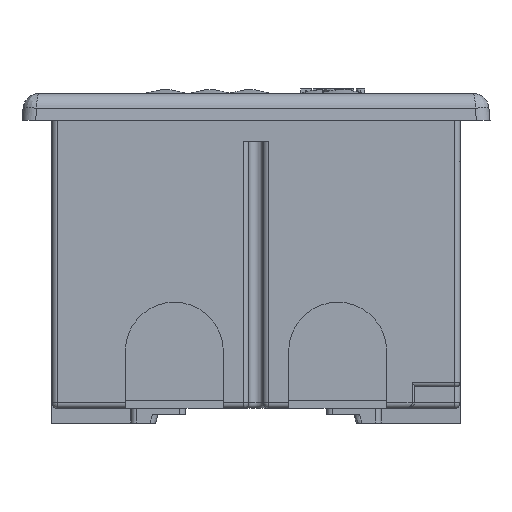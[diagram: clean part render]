
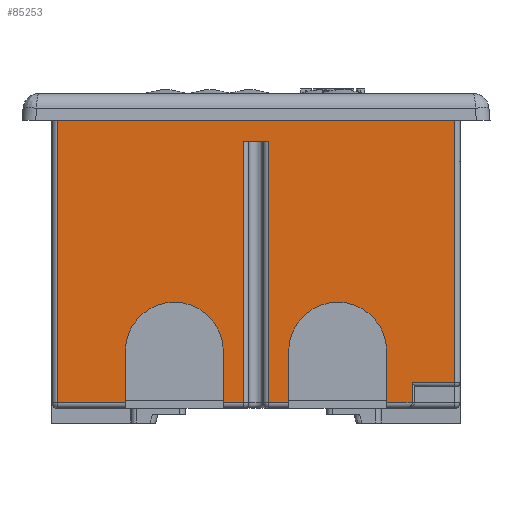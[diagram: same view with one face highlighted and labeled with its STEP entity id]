
A CAD part, front view. The second image highlights one B-rep face of the part: STEP entity #85253.
In plain terms, the highlighted planar face has unit normal (0, -1, 0).
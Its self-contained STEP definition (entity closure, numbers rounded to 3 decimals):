
#1070 = CARTESIAN_POINT ( 'NONE',  ( -37.5, -80., 53.5 ) ) ;
#2842 = CARTESIAN_POINT ( 'NONE',  ( -36.5, -80., 53.5 ) ) ;
#2870 = DIRECTION ( 'NONE',  ( 0., 0., -1. ) ) ;
#3031 = CARTESIAN_POINT ( 'NONE',  ( -36.5, -80., 55. ) ) ;
#3372 = EDGE_CURVE ( 'NONE', #44125, #27571, #8082, .T. ) ;
#5575 = ORIENTED_EDGE ( 'NONE', *, *, #78270, .T. ) ;
#5854 = ORIENTED_EDGE ( 'NONE', *, *, #75296, .T. ) ;
#6375 = VECTOR ( 'NONE', #120239, 1000. ) ;
#8082 = LINE ( 'NONE', #50762, #34492 ) ;
#8683 = VECTOR ( 'NONE', #106391, 1000. ) ;
#10612 = VECTOR ( 'NONE', #18230, 1000. ) ;
#10653 = LINE ( 'NONE', #29027, #80270 ) ;
#11563 = VERTEX_POINT ( 'NONE', #108604 ) ;
#11758 = EDGE_CURVE ( 'NONE', #75592, #24073, #98625, .T. ) ;
#13762 = LINE ( 'NONE', #114788, #10612 ) ;
#13843 = VERTEX_POINT ( 'NONE', #92413 ) ;
#14846 = EDGE_CURVE ( 'NONE', #71360, #76273, #23580, .T. ) ;
#18230 = DIRECTION ( 'NONE',  ( 1., 0., 0. ) ) ;
#18547 = CARTESIAN_POINT ( 'NONE',  ( 2.3, -80., 1. ) ) ;
#20481 = VECTOR ( 'NONE', #92983, 1000. ) ;
#20747 = DIRECTION ( 'NONE',  ( -1., 0., 0. ) ) ;
#20759 = ORIENTED_EDGE ( 'NONE', *, *, #3372, .T. ) ;
#20912 = DIRECTION ( 'NONE',  ( 0., 1., 0. ) ) ;
#21147 = VECTOR ( 'NONE', #44336, 1000. ) ;
#21349 = CARTESIAN_POINT ( 'NONE',  ( -37.5, -80., 55. ) ) ;
#21479 = PLANE ( 'NONE',  #74192 ) ;
#22157 = VECTOR ( 'NONE', #103916, 1000. ) ;
#22182 = DIRECTION ( 'NONE',  ( 0., 0., 1. ) ) ;
#22729 = CARTESIAN_POINT ( 'NONE',  ( -2.3, -80., 55. ) ) ;
#23580 = LINE ( 'NONE', #22729, #122091 ) ;
#24058 = VERTEX_POINT ( 'NONE', #67830 ) ;
#24073 = VERTEX_POINT ( 'NONE', #67370 ) ;
#24332 = LINE ( 'NONE', #34423, #21147 ) ;
#24581 = ORIENTED_EDGE ( 'NONE', *, *, #27420, .F. ) ;
#26285 = CARTESIAN_POINT ( 'NONE',  ( -2.3, -80., 1. ) ) ;
#27420 = EDGE_CURVE ( 'NONE', #44125, #76273, #10653, .T. ) ;
#27571 = VERTEX_POINT ( 'NONE', #18547 ) ;
#28618 = DIRECTION ( 'NONE',  ( -1., 0., 0. ) ) ;
#28694 = EDGE_CURVE ( 'NONE', #24073, #76984, #48517, .T. ) ;
#28798 = EDGE_CURVE ( 'NONE', #27571, #53504, #122183, .T. ) ;
#28805 = CARTESIAN_POINT ( 'NONE',  ( 6., -80., 10.5 ) ) ;
#29027 = CARTESIAN_POINT ( 'NONE',  ( -1.3, -80., 49. ) ) ;
#31230 = VERTEX_POINT ( 'NONE', #75135 ) ;
#32446 = CARTESIAN_POINT ( 'NONE',  ( -6., -80., 10.5 ) ) ;
#33183 = CARTESIAN_POINT ( 'NONE',  ( -2.3, -80., 49. ) ) ;
#34423 = CARTESIAN_POINT ( 'NONE',  ( -6., -80., 0. ) ) ;
#34492 = VECTOR ( 'NONE', #114474, 1000. ) ;
#35073 = LINE ( 'NONE', #78944, #8683 ) ;
#36308 = AXIS2_PLACEMENT_3D ( 'NONE', #119785, #119769, #119662 ) ;
#40879 = ORIENTED_EDGE ( 'NONE', *, *, #96279, .T. ) ;
#41181 = VECTOR ( 'NONE', #106883, 1000. ) ;
#41322 = EDGE_CURVE ( 'NONE', #77916, #53504, #58954, .T. ) ;
#42022 = CARTESIAN_POINT ( 'NONE',  ( 28.683, -80., 1. ) ) ;
#44125 = VERTEX_POINT ( 'NONE', #64786 ) ;
#44336 = DIRECTION ( 'NONE',  ( 0., 0., 1. ) ) ;
#45588 = VERTEX_POINT ( 'NONE', #42022 ) ;
#45645 = CARTESIAN_POINT ( 'NONE',  ( 36.5, -80., 55. ) ) ;
#47307 = LINE ( 'NONE', #88138, #102831 ) ;
#48517 = LINE ( 'NONE', #103054, #22157 ) ;
#50762 = CARTESIAN_POINT ( 'NONE',  ( 2.3, -80., 55. ) ) ;
#51395 = ORIENTED_EDGE ( 'NONE', *, *, #106918, .F. ) ;
#52270 = DIRECTION ( 'NONE',  ( 0., 0., 1. ) ) ;
#53020 = CARTESIAN_POINT ( 'NONE',  ( 28.683, -80., 55. ) ) ;
#53504 = VERTEX_POINT ( 'NONE', #73493 ) ;
#54892 = EDGE_LOOP ( 'NONE', ( #24581, #20759, #121557, #101388, #108663, #124379, #108001, #5854, #5575, #40879, #125715, #121015, #68848, #125072, #126021, #51395, #117533, #103675 ) ) ;
#55548 = DIRECTION ( 'NONE',  ( 0., 0., 1. ) ) ;
#56816 = CIRCLE ( 'NONE', #36308, 9. ) ;
#57548 = EDGE_CURVE ( 'NONE', #116277, #77916, #56816, .T. ) ;
#58954 = LINE ( 'NONE', #119821, #6375 ) ;
#59314 = VECTOR ( 'NONE', #55548, 1000. ) ;
#62107 = DIRECTION ( 'NONE',  ( 1., 0., 0. ) ) ;
#62504 = AXIS2_PLACEMENT_3D ( 'NONE', #97141, #97125, #96968 ) ;
#63366 = CARTESIAN_POINT ( 'NONE',  ( -37.5, -80., 1. ) ) ;
#64786 = CARTESIAN_POINT ( 'NONE',  ( 2.3, -80., 49. ) ) ;
#65209 = VECTOR ( 'NONE', #89696, 1000. ) ;
#65834 = EDGE_CURVE ( 'NONE', #111903, #71360, #13762, .T. ) ;
#67165 = EDGE_CURVE ( 'NONE', #99100, #24058, #92125, .T. ) ;
#67370 = CARTESIAN_POINT ( 'NONE',  ( -24., -80., 10.5 ) ) ;
#67830 = CARTESIAN_POINT ( 'NONE',  ( -36.5, -80., 1. ) ) ;
#68848 = ORIENTED_EDGE ( 'NONE', *, *, #70205, .T. ) ;
#69036 = EDGE_CURVE ( 'NONE', #99100, #31230, #114429, .T. ) ;
#70205 = EDGE_CURVE ( 'NONE', #24058, #76984, #119624, .T. ) ;
#70490 = EDGE_CURVE ( 'NONE', #116277, #13843, #47307, .T. ) ;
#71360 = VERTEX_POINT ( 'NONE', #26285 ) ;
#73493 = CARTESIAN_POINT ( 'NONE',  ( 6., -80., 1. ) ) ;
#74192 = AXIS2_PLACEMENT_3D ( 'NONE', #21349, #20912, #20747 ) ;
#75135 = CARTESIAN_POINT ( 'NONE',  ( 36.5, -80., 53.5 ) ) ;
#75296 = EDGE_CURVE ( 'NONE', #45588, #124284, #106851, .T. ) ;
#75592 = VERTEX_POINT ( 'NONE', #32446 ) ;
#76155 = FACE_OUTER_BOUND ( 'NONE', #54892, .T. ) ;
#76273 = VERTEX_POINT ( 'NONE', #33183 ) ;
#76984 = VERTEX_POINT ( 'NONE', #87352 ) ;
#77016 = VECTOR ( 'NONE', #62107, 1000. ) ;
#77423 = EDGE_CURVE ( 'NONE', #13843, #45588, #106276, .T. ) ;
#77916 = VERTEX_POINT ( 'NONE', #28805 ) ;
#78270 = EDGE_CURVE ( 'NONE', #124284, #11563, #35073, .T. ) ;
#78944 = CARTESIAN_POINT ( 'NONE',  ( 36.5, -80., 4.7 ) ) ;
#80270 = VECTOR ( 'NONE', #28618, 1000. ) ;
#80711 = VECTOR ( 'NONE', #52270, 1000. ) ;
#85253 = ADVANCED_FACE ( 'NONE', ( #76155 ), #21479, .F. ) ;
#85631 = LINE ( 'NONE', #45645, #59314 ) ;
#87352 = CARTESIAN_POINT ( 'NONE',  ( -24., -80., 1. ) ) ;
#87992 = DIRECTION ( 'NONE',  ( 0., 0., -1. ) ) ;
#88138 = CARTESIAN_POINT ( 'NONE',  ( 24., -80., 55. ) ) ;
#89005 = VECTOR ( 'NONE', #2870, 1000. ) ;
#89696 = DIRECTION ( 'NONE',  ( 1., 0., 0. ) ) ;
#92125 = LINE ( 'NONE', #3031, #89005 ) ;
#92413 = CARTESIAN_POINT ( 'NONE',  ( 24., -80., 1. ) ) ;
#92983 = DIRECTION ( 'NONE',  ( 1., 0., 0. ) ) ;
#93249 = CARTESIAN_POINT ( 'NONE',  ( -37.5, -80., 1. ) ) ;
#96279 = EDGE_CURVE ( 'NONE', #11563, #31230, #85631, .T. ) ;
#96968 = DIRECTION ( 'NONE',  ( -1., 0., 0. ) ) ;
#97125 = DIRECTION ( 'NONE',  ( 0., -1., 0. ) ) ;
#97141 = CARTESIAN_POINT ( 'NONE',  ( -15., -80., 10.5 ) ) ;
#98592 = CARTESIAN_POINT ( 'NONE',  ( 24., -80., 10.5 ) ) ;
#98625 = CIRCLE ( 'NONE', #62504, 9. ) ;
#99100 = VERTEX_POINT ( 'NONE', #2842 ) ;
#100166 = CARTESIAN_POINT ( 'NONE',  ( -6., -80., 1. ) ) ;
#101388 = ORIENTED_EDGE ( 'NONE', *, *, #41322, .F. ) ;
#102831 = VECTOR ( 'NONE', #87992, 1000. ) ;
#103054 = CARTESIAN_POINT ( 'NONE',  ( -24., -80., 0. ) ) ;
#103675 = ORIENTED_EDGE ( 'NONE', *, *, #14846, .T. ) ;
#103916 = DIRECTION ( 'NONE',  ( 0., 0., -1. ) ) ;
#106276 = LINE ( 'NONE', #63366, #77016 ) ;
#106391 = DIRECTION ( 'NONE',  ( 1., 0., 0. ) ) ;
#106851 = LINE ( 'NONE', #53020, #80711 ) ;
#106883 = DIRECTION ( 'NONE',  ( 1., 0., 0. ) ) ;
#106918 = EDGE_CURVE ( 'NONE', #111903, #75592, #24332, .T. ) ;
#107176 = CARTESIAN_POINT ( 'NONE',  ( -37.5, -80., 1. ) ) ;
#108001 = ORIENTED_EDGE ( 'NONE', *, *, #77423, .T. ) ;
#108604 = CARTESIAN_POINT ( 'NONE',  ( 36.5, -80., 4.7 ) ) ;
#108663 = ORIENTED_EDGE ( 'NONE', *, *, #57548, .F. ) ;
#111903 = VERTEX_POINT ( 'NONE', #100166 ) ;
#114429 = LINE ( 'NONE', #1070, #65209 ) ;
#114474 = DIRECTION ( 'NONE',  ( 0., 0., -1. ) ) ;
#114788 = CARTESIAN_POINT ( 'NONE',  ( -37.5, -80., 1. ) ) ;
#116277 = VERTEX_POINT ( 'NONE', #98592 ) ;
#117533 = ORIENTED_EDGE ( 'NONE', *, *, #65834, .T. ) ;
#119624 = LINE ( 'NONE', #107176, #41181 ) ;
#119662 = DIRECTION ( 'NONE',  ( 1., 0., 0. ) ) ;
#119769 = DIRECTION ( 'NONE',  ( 0., -1., 0. ) ) ;
#119785 = CARTESIAN_POINT ( 'NONE',  ( 15., -80., 10.5 ) ) ;
#119821 = CARTESIAN_POINT ( 'NONE',  ( 6., -80., 0. ) ) ;
#120239 = DIRECTION ( 'NONE',  ( 0., 0., -1. ) ) ;
#121015 = ORIENTED_EDGE ( 'NONE', *, *, #67165, .T. ) ;
#121557 = ORIENTED_EDGE ( 'NONE', *, *, #28798, .T. ) ;
#122091 = VECTOR ( 'NONE', #22182, 1000. ) ;
#122183 = LINE ( 'NONE', #93249, #20481 ) ;
#124284 = VERTEX_POINT ( 'NONE', #125199 ) ;
#124379 = ORIENTED_EDGE ( 'NONE', *, *, #70490, .T. ) ;
#125072 = ORIENTED_EDGE ( 'NONE', *, *, #28694, .F. ) ;
#125199 = CARTESIAN_POINT ( 'NONE',  ( 28.683, -80., 4.7 ) ) ;
#125715 = ORIENTED_EDGE ( 'NONE', *, *, #69036, .F. ) ;
#126021 = ORIENTED_EDGE ( 'NONE', *, *, #11758, .F. ) ;
